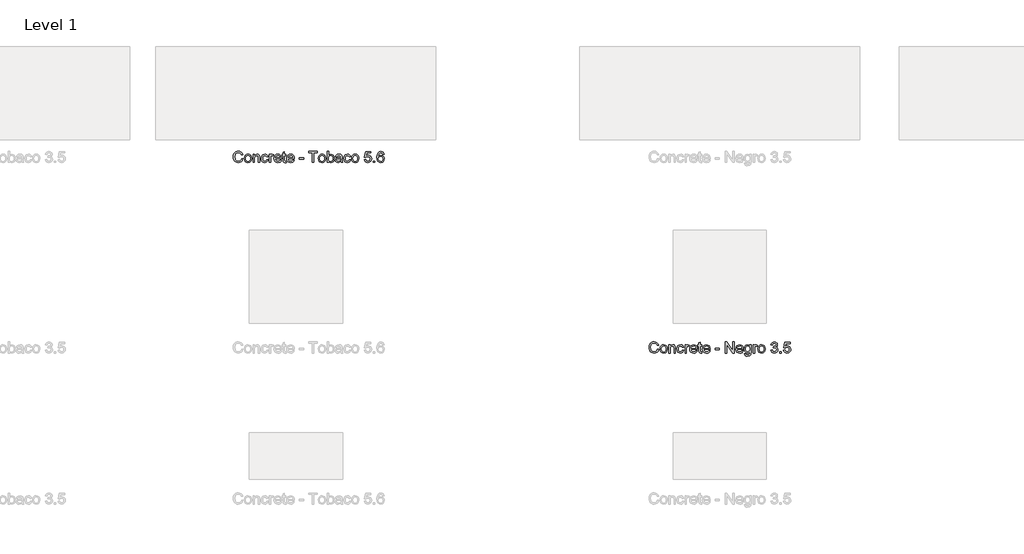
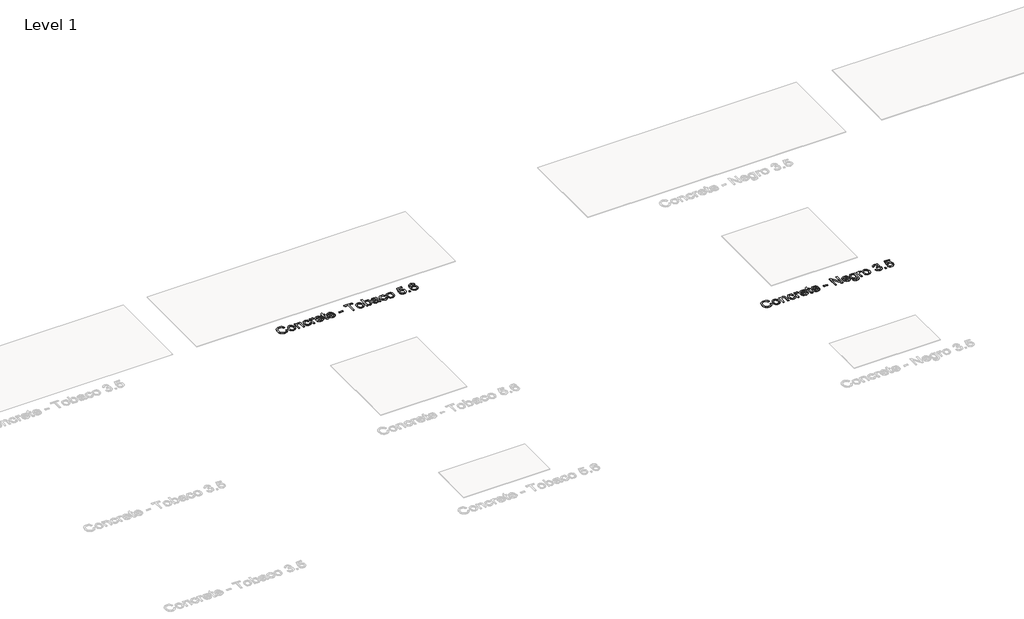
# One storey, part 55 of 80: 2 proxies.
"""IFC4 building model written with IfcOpenShell, lengths in millimetres."""

from ifc_helpers import new_model, si_unit, origin, origin_with_axes, place, context, project, spatial, polyline, outline, extrude, element, save

model = new_model("IFC4")

# Units and contexts
model_context = context("Model", 3, world=origin())
ifc_project = project(units=[si_unit("LENGTHUNIT", "METRE", prefix="MILLI")], contexts=[model_context])

# Site, building, storey
site = spatial("IfcSite", under=ifc_project)
building = spatial("IfcBuilding", under=site)
storey = spatial("IfcBuildingStorey", under=building, Name="Level 1", Elevation=0.0)

# Proxies
placement = place(None, origin())
element("IfcBuildingElementProxy", 1, Name="24\" Arial", ObjectType="24\" Arial", at=placement, inside=storey, context=model_context, shape_type="SweptSolid", body=[
    extrude(outline(polyline([(-7707.9991848, 10790.728562), (-7693.2299541, 10786.9208697), (-7700.0448579, 10769.7105332), (-7710.7395694, 10757.1372159), (-7724.7876464, 10749.4461101), (-7741.6626464, 10746.8824082), (-7758.793656, 10748.822312), (-7772.3982233, 10754.6420236), (-7782.8261079, 10764.1396197), (-7790.4270694, 10777.1131774), (-7795.0676944, 10792.3655813), (-7796.6145694, 10808.6997159), (-7794.8657714, 10825.9280813), (-7789.6193771, 10840.8054851), (-7781.1494252, 10852.8595717), (-7769.7299541, 10861.6179851), (-7756.1866848, 10866.9509178), (-7741.3453387, 10868.728562), (-7725.1518291, 10866.4280813), (-7711.7636079, 10859.526639), (-7701.5989444, 10848.4497159), (-7695.0761079, 10833.6227928), (-7709.8453387, 10830.103562), (-7714.965531, 10840.8739947), (-7721.9607233, 10848.2622159), (-7730.9174541, 10852.5350524), (-7741.9222617, 10853.9593313), (-7754.6073579, 10852.3800044), (-7765.028031, 10847.6420236), (-7772.9354829, 10840.2429851), (-7778.0809156, 10830.6804851), (-7781.8453387, 10808.728562), (-7777.3886079, 10783.2862544), (-7771.6914925, 10773.7850524), (-7763.5136079, 10767.0314467), (-7743.1338002, 10761.651639), (-7730.8056752, 10763.4833697), (-7720.5328387, 10768.978562), (-7712.7768291, 10778.0795236), (-7707.9991848, 10790.728562)])), origin_with_axes(), (0.0, 0.0, 1.0), 2.0),
    extrude(outline(polyline([(-7678.4607233, 10792.1131774), (-7675.2660117, 10813.0338505), (-7665.6818771, 10827.7381774), (-7653.840531, 10834.9425044), (-7639.6626464, 10837.3439467), (-7624.1470214, 10834.4196678), (-7611.7539925, 10825.6468313), (-7603.6301944, 10811.7177447), (-7600.9222617, 10793.3247159), (-7605.7107233, 10767.0458697), (-7619.6578387, 10752.1756774), (-7639.6626464, 10746.8824082), (-7655.3657714, 10749.7958697), (-7667.7443771, 10758.5362544), (-7675.7816367, 10772.7574082), (-7678.4607233, 10792.1131774)]), holes=[polyline([(-7663.6914925, 10792.1420236), (-7661.9823579, 10778.775437), (-7656.8549541, 10769.2526005), (-7649.1386079, 10763.5518794), (-7639.6626464, 10761.651639), (-7630.2299541, 10763.5626967), (-7622.528031, 10769.2958697), (-7617.4006271, 10778.9449082), (-7615.6914925, 10792.603562), (-7617.4114444, 10805.5807255), (-7622.5713002, 10814.9737544), (-7630.2840406, 10820.6744755), (-7639.6626464, 10822.5747159), (-7649.1386079, 10820.681687), (-7656.8549541, 10815.0026005), (-7661.9823579, 10805.5013986), (-7663.6914925, 10792.1420236)])]), origin_with_axes(), (0.0, 0.0, 1.0), 2.0),
    extrude(outline(polyline([(-7584.3068771, 10748.728562), (-7584.3068771, 10835.4977928), (-7569.5376464, 10835.4977928), (-7569.5376464, 10823.3824082), (-7558.2443771, 10833.853562), (-7542.8261079, 10837.3439467), (-7528.8789925, 10834.5314467), (-7519.3597617, 10827.1468313), (-7514.9318771, 10816.2862544), (-7514.153031, 10802.0074082), (-7514.153031, 10748.728562), (-7528.9222617, 10748.728562), (-7528.9222617, 10800.0170236), (-7530.6241848, 10813.0843313), (-7536.6386079, 10819.9929851), (-7546.778031, 10822.5747159), (-7562.8020694, 10816.776639), (-7567.8537521, 10808.3751967), (-7569.5376464, 10794.7670236), (-7569.5376464, 10748.728562), (-7584.3068771, 10748.728562)])), origin_with_axes(), (0.0, 0.0, 1.0), 2.0),
    extrude(outline(polyline([(-7438.4607233, 10780.1131774), (-7423.6914925, 10778.2670236), (-7427.809281, 10765.1312063), (-7435.5472617, 10755.2045236), (-7446.1770694, 10748.962937), (-7458.9703387, 10746.8824082), (-7474.6806752, 10749.7850524), (-7486.965531, 10758.4929851), (-7494.8946175, 10772.6239947), (-7497.5376464, 10791.7958697), (-7493.0232233, 10816.3295236), (-7487.3261079, 10825.5278409), (-7479.2636079, 10832.0939467), (-7459.1722617, 10837.3439467), (-7446.6926944, 10835.541062), (-7436.715531, 10830.1324082), (-7429.5580791, 10821.4064467), (-7425.5376464, 10809.651639), (-7440.3068771, 10807.8054851), (-7447.1578387, 10818.8679851), (-7459.0568771, 10822.5747159), (-7468.6013483, 10820.7501967), (-7476.1770694, 10815.276639), (-7481.1205791, 10805.8583697), (-7482.7684156, 10792.1997159), (-7481.1566367, 10778.3571678), (-7476.3213002, 10768.9064467), (-7468.8825983, 10763.4653409), (-7459.4607233, 10761.651639), (-7445.5424541, 10766.1804851), (-7438.4607233, 10780.1131774)])), origin_with_axes(), (0.0, 0.0, 1.0), 2.0),
    extrude(outline(polyline([(-7410.7684156, 10748.728562), (-7410.7684156, 10835.4977928), (-7397.8453387, 10835.4977928), (-7397.8453387, 10822.6612544), (-7388.6722617, 10834.4881774), (-7379.4414925, 10837.3439467), (-7364.6145694, 10832.7862544), (-7369.5472617, 10819.5458697), (-7379.9318771, 10822.5747159), (-7388.2828387, 10819.6612544), (-7393.6049541, 10811.5843313), (-7395.9991848, 10794.3343313), (-7395.9991848, 10748.728562), (-7410.7684156, 10748.728562)])), origin_with_axes(), (0.0, 0.0, 1.0), 2.0),
    extrude(outline(polyline([(-7294.6338002, 10774.5747159), (-7280.153031, 10772.728562), (-7285.3705791, 10761.8175044), (-7293.6963002, 10753.6612544), (-7304.9426944, 10748.5771197), (-7318.9222617, 10746.8824082), (-7336.2515887, 10749.806687), (-7349.5857233, 10758.5795236), (-7358.0881271, 10772.6312063), (-7360.9222617, 10791.3920236), (-7358.059281, 10810.7838505), (-7349.4703387, 10825.2862544), (-7336.3164925, 10834.3295236), (-7319.7588002, 10837.3439467), (-7303.7167329, 10834.3367351), (-7290.8982233, 10825.3151005), (-7282.4931752, 10810.8415428), (-7279.6914925, 10791.478562), (-7279.778031, 10787.4977928), (-7346.153031, 10787.4977928), (-7343.5965406, 10776.4425044), (-7337.6578387, 10768.3151005), (-7329.0869252, 10763.3175044), (-7318.6338002, 10761.651639), (-7304.153031, 10764.7381774), (-7294.6338002, 10774.5747159)]), holes=[polyline([(-7346.153031, 10802.2670236), (-7294.4607233, 10802.2670236), (-7300.3741848, 10815.651639), (-7308.9847617, 10820.8439467), (-7319.8164925, 10822.5747159), (-7338.0039925, 10817.0506774), (-7343.7263483, 10810.5927447), (-7346.153031, 10802.2670236)])]), origin_with_axes(), (0.0, 0.0, 1.0), 2.0),
    extrude(outline(polyline([(-7233.5376464, 10761.0458697), (-7231.6914925, 10748.2958697), (-7242.7395694, 10746.8824082), (-7255.1145694, 10749.3343313), (-7261.2876464, 10755.7670236), (-7263.0761079, 10772.526639), (-7263.0761079, 10820.728562), (-7274.153031, 10820.728562), (-7274.153031, 10835.4977928), (-7263.0761079, 10835.4977928), (-7263.0761079, 10856.5843313), (-7248.3068771, 10865.2670236), (-7248.3068771, 10835.4977928), (-7233.5376464, 10835.4977928), (-7233.5376464, 10820.728562), (-7248.3068771, 10820.728562), (-7248.3068771, 10772.9593313), (-7247.528031, 10765.3439467), (-7245.0039925, 10762.6468313), (-7239.9703387, 10761.651639), (-7233.5376464, 10761.0458697)])), origin_with_axes(), (0.0, 0.0, 1.0), 2.0),
    extrude(outline(polyline([(-7158.0184156, 10774.5747159), (-7143.5376464, 10772.728562), (-7148.7551944, 10761.8175044), (-7157.0809156, 10753.6612544), (-7168.3273098, 10748.5771197), (-7182.3068771, 10746.8824082), (-7199.6362041, 10749.806687), (-7212.9703387, 10758.5795236), (-7221.4727425, 10772.6312063), (-7224.3068771, 10791.3920236), (-7221.4438964, 10810.7838505), (-7212.8549541, 10825.2862544), (-7199.7011079, 10834.3295236), (-7183.1434156, 10837.3439467), (-7167.1013483, 10834.3367351), (-7154.2828387, 10825.3151005), (-7145.8777906, 10810.8415428), (-7143.0761079, 10791.478562), (-7143.1626464, 10787.4977928), (-7209.5376464, 10787.4977928), (-7206.981156, 10776.4425044), (-7201.0424541, 10768.3151005), (-7192.4715406, 10763.3175044), (-7182.0184156, 10761.651639), (-7167.5376464, 10764.7381774), (-7158.0184156, 10774.5747159)]), holes=[polyline([(-7209.5376464, 10802.2670236), (-7157.8453387, 10802.2670236), (-7163.7588002, 10815.651639), (-7172.3693771, 10820.8439467), (-7183.2011079, 10822.5747159), (-7201.3886079, 10817.0506774), (-7207.1109637, 10810.5927447), (-7209.5376464, 10802.2670236)])]), origin_with_axes(), (0.0, 0.0, 1.0), 2.0),
    extrude(outline(polyline([(-7089.5376464, 10783.8054851), (-7089.5376464, 10798.5747159), (-7043.3838002, 10798.5747159), (-7043.3838002, 10783.8054851), (-7089.5376464, 10783.8054851)])), origin_with_axes(), (0.0, 0.0, 1.0), 2.0),
    extrude(outline(polyline([(-6949.2299541, 10748.728562), (-6949.2299541, 10852.1131774), (-6987.9991848, 10852.1131774), (-6987.9991848, 10866.8824082), (-6895.6914925, 10866.8824082), (-6895.6914925, 10852.1131774), (-6934.4607233, 10852.1131774), (-6934.4607233, 10748.728562), (-6949.2299541, 10748.728562)])), origin_with_axes(), (0.0, 0.0, 1.0), 2.0),
    extrude(outline(polyline([(-6884.6145694, 10792.1131774), (-6881.4198579, 10813.0338505), (-6871.8357233, 10827.7381774), (-6859.9943771, 10834.9425044), (-6845.8164925, 10837.3439467), (-6830.3008675, 10834.4196678), (-6817.9078387, 10825.6468313), (-6809.7840406, 10811.7177447), (-6807.0761079, 10793.3247159), (-6811.8645694, 10767.0458697), (-6825.8116848, 10752.1756774), (-6845.8164925, 10746.8824082), (-6861.5196175, 10749.7958697), (-6873.8982233, 10758.5362544), (-6881.9354829, 10772.7574082), (-6884.6145694, 10792.1131774)]), holes=[polyline([(-6869.8453387, 10792.1420236), (-6868.1362041, 10778.775437), (-6863.0088002, 10769.2526005), (-6855.2924541, 10763.5518794), (-6845.8164925, 10761.651639), (-6836.3838002, 10763.5626967), (-6828.6818771, 10769.2958697), (-6823.5544733, 10778.9449082), (-6821.8453387, 10792.603562), (-6823.5652906, 10805.5807255), (-6828.7251464, 10814.9737544), (-6836.4378867, 10820.6744755), (-6845.8164925, 10822.5747159), (-6855.2924541, 10820.681687), (-6863.0088002, 10815.0026005), (-6868.1362041, 10805.5013986), (-6869.8453387, 10792.1420236)])]), origin_with_axes(), (0.0, 0.0, 1.0), 2.0),
    extrude(outline(polyline([(-6775.6914925, 10748.728562), (-6790.4607233, 10748.728562), (-6790.4607233, 10866.8824082), (-6775.6914925, 10866.8824082), (-6775.6914925, 10823.0651005), (-6765.3501464, 10833.7742351), (-6752.4991848, 10837.3439467), (-6737.7011079, 10834.1276005), (-6726.2203387, 10825.0843313), (-6719.1674541, 10811.0218313), (-6716.6145694, 10793.4112544), (-6719.2575983, 10773.6949082), (-6727.1866848, 10759.026639), (-6738.8225021, 10749.9184659), (-6752.5857233, 10746.8824082), (-6765.7179348, 10750.7982736), (-6775.6914925, 10762.5458697), (-6775.6914925, 10748.728562)]), holes=[polyline([(-6775.6914925, 10792.7189467), (-6771.653031, 10772.0651005), (-6763.9150502, 10764.2550044), (-6753.8549541, 10761.651639), (-6745.3309156, 10763.5699082), (-6738.0472617, 10769.3247159), (-6733.0496656, 10778.8800044), (-6731.3838002, 10792.1997159), (-6732.981156, 10805.714139), (-6737.7732233, 10815.1612544), (-6744.8297137, 10820.7213505), (-6753.2203387, 10822.5747159), (-6761.7443771, 10820.6564467), (-6769.028031, 10814.901639), (-6774.0256271, 10805.5194274), (-6775.6914925, 10792.7189467)])]), origin_with_axes(), (0.0, 0.0, 1.0), 2.0),
    extrude(outline(polyline([(-6644.6145694, 10759.8054851), (-6658.9366848, 10749.7958697), (-6674.7588002, 10746.8824082), (-6687.1013483, 10748.634812), (-6696.2059156, 10753.8920236), (-6701.8200983, 10761.8751967), (-6703.6914925, 10771.8054851), (-6700.8645694, 10783.4881774), (-6693.4366848, 10791.9689467), (-6683.0953387, 10796.8151005), (-6670.3164925, 10799.0362544), (-6644.7011079, 10804.1131774), (-6644.6145694, 10807.401639), (-6648.6818771, 10818.3054851), (-6665.0088002, 10822.5747159), (-6679.9511079, 10819.7333697), (-6687.0761079, 10809.651639), (-6701.8453387, 10811.4977928), (-6695.4559156, 10825.9208697), (-6682.590531, 10834.3727928), (-6663.1049541, 10837.3439467), (-6645.2059156, 10834.7189467), (-6635.0953387, 10828.1276005), (-6630.5664925, 10818.103562), (-6629.8453387, 10805.1804851), (-6629.8453387, 10786.8054851), (-6629.0953387, 10761.1468313), (-6626.153031, 10748.728562), (-6640.9222617, 10748.728562), (-6644.6145694, 10759.8054851)]), holes=[polyline([(-6644.6145694, 10789.3439467), (-6668.4414925, 10784.8151005), (-6681.1482233, 10782.4208697), (-6686.903031, 10778.526639), (-6688.9222617, 10772.8439467), (-6684.5232233, 10764.853562), (-6671.6145694, 10761.651639), (-6656.6722617, 10765.1852928), (-6647.0376464, 10773.7381774), (-6644.7011079, 10785.1612544), (-6644.6145694, 10789.3439467)])]), origin_with_axes(), (0.0, 0.0, 1.0), 2.0),
    extrude(outline(polyline([(-6554.153031, 10780.1131774), (-6539.3838002, 10778.2670236), (-6543.5015887, 10765.1312063), (-6551.2395694, 10755.2045236), (-6561.8693771, 10748.962937), (-6574.6626464, 10746.8824082), (-6590.3729829, 10749.7850524), (-6602.6578387, 10758.4929851), (-6610.5869252, 10772.6239947), (-6613.2299541, 10791.7958697), (-6608.715531, 10816.3295236), (-6603.0184156, 10825.5278409), (-6594.9559156, 10832.0939467), (-6574.8645694, 10837.3439467), (-6562.3850021, 10835.541062), (-6552.4078387, 10830.1324082), (-6545.2503867, 10821.4064467), (-6541.2299541, 10809.651639), (-6555.9991848, 10807.8054851), (-6562.8501464, 10818.8679851), (-6574.7491848, 10822.5747159), (-6584.293656, 10820.7501967), (-6591.8693771, 10815.276639), (-6596.8128867, 10805.8583697), (-6598.4607233, 10792.1997159), (-6596.8489444, 10778.3571678), (-6592.0136079, 10768.9064467), (-6584.574906, 10763.4653409), (-6575.153031, 10761.651639), (-6561.2347617, 10766.1804851), (-6554.153031, 10780.1131774)])), origin_with_axes(), (0.0, 0.0, 1.0), 2.0),
    extrude(outline(polyline([(-6530.153031, 10792.1131774), (-6526.9583194, 10813.0338505), (-6517.3741848, 10827.7381774), (-6505.5328387, 10834.9425044), (-6491.3549541, 10837.3439467), (-6475.8393291, 10834.4196678), (-6463.4463002, 10825.6468313), (-6455.3225021, 10811.7177447), (-6452.6145694, 10793.3247159), (-6457.403031, 10767.0458697), (-6471.3501464, 10752.1756774), (-6491.3549541, 10746.8824082), (-6507.0580791, 10749.7958697), (-6519.4366848, 10758.5362544), (-6527.4739444, 10772.7574082), (-6530.153031, 10792.1131774)]), holes=[polyline([(-6515.3838002, 10792.1420236), (-6513.6746656, 10778.775437), (-6508.5472617, 10769.2526005), (-6500.8309156, 10763.5518794), (-6491.3549541, 10761.651639), (-6481.9222617, 10763.5626967), (-6474.2203387, 10769.2958697), (-6469.0929348, 10778.9449082), (-6467.3838002, 10792.603562), (-6469.1037521, 10805.5807255), (-6474.2636079, 10814.9737544), (-6481.9763483, 10820.6744755), (-6491.3549541, 10822.5747159), (-6500.8309156, 10820.681687), (-6508.5472617, 10815.0026005), (-6513.6746656, 10805.5013986), (-6515.3838002, 10792.1420236)])]), origin_with_axes(), (0.0, 0.0, 1.0), 2.0),
    extrude(outline(polyline([(-6393.5376464, 10780.1131774), (-6378.7684156, 10781.9593313), (-6371.3261079, 10766.7429851), (-6355.8934156, 10761.651639), (-6345.3068771, 10763.4220717), (-6337.3741848, 10768.7333697), (-6332.4198579, 10776.9725524), (-6330.7684156, 10787.526639), (-6332.3152906, 10797.464139), (-6336.9559156, 10805.0651005), (-6344.7263483, 10809.8896197), (-6355.6626464, 10811.4977928), (-6368.6289925, 10808.9304851), (-6376.9222617, 10802.2670236), (-6391.6914925, 10804.1131774), (-6378.7684156, 10865.0362544), (-6321.5376464, 10865.0362544), (-6321.5376464, 10850.2670236), (-6366.8261079, 10850.2670236), (-6373.1434156, 10817.728562), (-6362.5929348, 10824.1324082), (-6351.5376464, 10826.2670236), (-6337.7383675, 10823.620389), (-6326.2828387, 10815.6804851), (-6318.5700983, 10803.5795236), (-6315.9991848, 10788.4497159), (-6318.3140887, 10773.6804851), (-6325.2588002, 10761.0458697), (-6338.5568771, 10750.4232736), (-6355.9511079, 10746.8824082), (-6370.4571175, 10749.1576486), (-6382.0136079, 10755.9833697), (-6389.9354829, 10766.5663024), (-6393.5376464, 10780.1131774)])), origin_with_axes(), (0.0, 0.0, 1.0), 2.0),
    extrude(outline(polyline([(-6295.6914925, 10748.728562), (-6295.6914925, 10763.4977928), (-6280.9222617, 10763.4977928), (-6280.9222617, 10748.728562), (-6295.6914925, 10748.728562)])), origin_with_axes(), (0.0, 0.0, 1.0), 2.0),
    extrude(outline(polyline([(-6181.2299541, 10835.4977928), (-6195.9991848, 10833.651639), (-6201.5953387, 10845.9689467), (-6208.2948579, 10850.5771197), (-6216.3934156, 10852.1131774), (-6229.7203387, 10848.5362544), (-6239.8020694, 10835.1083697), (-6243.9991848, 10808.7862544), (-6230.9751464, 10820.5699082), (-6214.8357233, 10824.4208697), (-6201.1914925, 10821.7886582), (-6189.7395694, 10813.8920236), (-6181.9727425, 10801.8271197), (-6179.3838002, 10786.6901005), (-6184.2588002, 10766.3102928), (-6197.6722617, 10751.8872159), (-6217.028031, 10746.8824082), (-6233.7840406, 10750.1997159), (-6247.1289925, 10760.151639), (-6255.8585598, 10777.7189467), (-6258.7684156, 10803.8824082), (-6255.5376464, 10833.2982736), (-6245.8453387, 10853.4112544), (-6232.6121656, 10863.5146197), (-6215.4703387, 10866.8824082), (-6202.5112041, 10864.7982736), (-6192.1338002, 10858.5458697), (-6184.8645694, 10848.6155813), (-6181.2299541, 10835.4977928)]), holes=[polyline([(-6243.9991848, 10786.9208697), (-6240.5809156, 10774.1276005), (-6231.4943771, 10764.839139), (-6218.1818771, 10761.651639), (-6208.4354829, 10763.3030813), (-6200.7732233, 10768.2574082), (-6195.8080791, 10776.0458697), (-6194.153031, 10786.1997159), (-6195.7864444, 10795.9461101), (-6200.6866848, 10803.3776005), (-6208.4787521, 10808.0831294), (-6218.7876464, 10809.651639), (-6228.5196175, 10808.0831294), (-6236.6578387, 10803.3776005), (-6242.1638483, 10796.1263986), (-6243.9991848, 10786.9208697)])]), origin_with_axes(), (0.0, 0.0, 1.0), 2.0),
])
element("IfcBuildingElementProxy", 2, Name="24\" Arial", ObjectType="24\" Arial", at=placement, inside=storey, context=model_context, shape_type="SweptSolid", body=[
    extrude(outline(polyline([(-3254.7684156, 8750.084666), (-3239.9991848, 8746.2769737), (-3246.8140887, 8729.0666372), (-3257.5088002, 8716.4933199), (-3271.5568771, 8708.8022141), (-3288.4318771, 8706.2385122), (-3305.5628867, 8708.178416), (-3319.1674541, 8713.9981275), (-3329.5953387, 8723.4957237), (-3337.1963002, 8736.4692814), (-3341.8369252, 8751.7216852), (-3343.3838002, 8768.0558199), (-3341.6350021, 8785.2841852), (-3336.3886079, 8800.1615891), (-3327.918656, 8812.2156756), (-3316.4991848, 8820.9740891), (-3302.9559156, 8826.3070218), (-3288.1145694, 8828.084666), (-3271.9210598, 8825.7841852), (-3258.5328387, 8818.8827429), (-3248.3681752, 8807.8058199), (-3241.8453387, 8792.9788968), (-3256.6145694, 8789.459666), (-3261.7347617, 8800.2300987), (-3268.7299541, 8807.6183199), (-3277.6866848, 8811.8911564), (-3288.6914925, 8813.3154352), (-3301.3765887, 8811.7361083), (-3311.7972617, 8806.9981275), (-3319.7047137, 8799.5990891), (-3324.8501464, 8790.0365891), (-3328.6145694, 8768.084666), (-3324.1578387, 8742.6423583), (-3318.4607233, 8733.1411564), (-3310.2828387, 8726.3875506), (-3289.903031, 8721.0077429), (-3277.574906, 8722.8394737), (-3267.3020694, 8728.334666), (-3259.5460598, 8737.4356275), (-3254.7684156, 8750.084666)])), origin_with_axes(), (0.0, 0.0, 1.0), 2.0),
    extrude(outline(polyline([(-3225.2299541, 8751.4692814), (-3222.0352425, 8772.3899545), (-3212.4511079, 8787.0942814), (-3200.6097617, 8794.2986083), (-3186.4318771, 8796.7000506), (-3170.9162521, 8793.7757718), (-3158.5232233, 8785.0029352), (-3150.3994252, 8771.0738487), (-3147.6914925, 8752.6808199), (-3152.4799541, 8726.4019737), (-3166.4270694, 8711.5317814), (-3186.4318771, 8706.2385122), (-3202.1350021, 8709.1519737), (-3214.5136079, 8717.8923583), (-3222.5508675, 8732.1135122), (-3225.2299541, 8751.4692814)]), holes=[polyline([(-3210.4607233, 8751.4981275), (-3208.7515887, 8738.131541), (-3203.6241848, 8728.6087045), (-3195.9078387, 8722.9079833), (-3186.4318771, 8721.0077429), (-3176.9991848, 8722.9188006), (-3169.2972617, 8728.6519737), (-3164.1698579, 8738.3010122), (-3162.4607233, 8751.959666), (-3164.1806752, 8764.9368295), (-3169.340531, 8774.3298583), (-3177.0532714, 8780.0305795), (-3186.4318771, 8781.9308199), (-3195.9078387, 8780.037791), (-3203.6241848, 8774.3587045), (-3208.7515887, 8764.8575025), (-3210.4607233, 8751.4981275)])]), origin_with_axes(), (0.0, 0.0, 1.0), 2.0),
    extrude(outline(polyline([(-3131.0761079, 8708.084666), (-3131.0761079, 8794.8538968), (-3116.3068771, 8794.8538968), (-3116.3068771, 8782.7385122), (-3105.0136079, 8793.209666), (-3089.5953387, 8796.7000506), (-3075.6482233, 8793.8875506), (-3066.1289925, 8786.5029352), (-3061.7011079, 8775.6423583), (-3060.9222617, 8761.3635122), (-3060.9222617, 8708.084666), (-3075.6914925, 8708.084666), (-3075.6914925, 8759.3731275), (-3077.3934156, 8772.4404352), (-3083.4078387, 8779.3490891), (-3093.5472617, 8781.9308199), (-3109.5713002, 8776.1327429), (-3114.6229829, 8767.7313006), (-3116.3068771, 8754.1231275), (-3116.3068771, 8708.084666), (-3131.0761079, 8708.084666)])), origin_with_axes(), (0.0, 0.0, 1.0), 2.0),
    extrude(outline(polyline([(-2985.2299541, 8739.4692814), (-2970.4607233, 8737.6231275), (-2974.5785117, 8724.4873102), (-2982.3164925, 8714.5606275), (-2992.9463002, 8708.319041), (-3005.7395694, 8706.2385122), (-3021.449906, 8709.1411564), (-3033.7347617, 8717.8490891), (-3041.6638483, 8731.9800987), (-3044.3068771, 8751.1519737), (-3039.7924541, 8775.6856275), (-3034.0953387, 8784.8839449), (-3026.0328387, 8791.4500506), (-3005.9414925, 8796.7000506), (-2993.4619252, 8794.897166), (-2983.4847617, 8789.4885122), (-2976.3273098, 8780.7625506), (-2972.3068771, 8769.0077429), (-2987.0761079, 8767.1615891), (-2993.9270694, 8778.2240891), (-3005.8261079, 8781.9308199), (-3015.3705791, 8780.1063006), (-3022.9463002, 8774.6327429), (-3027.8898098, 8765.2144737), (-3029.5376464, 8751.5558199), (-3027.9258675, 8737.7132718), (-3023.090531, 8728.2625506), (-3015.6518291, 8722.8214449), (-3006.2299541, 8721.0077429), (-2992.3116848, 8725.5365891), (-2985.2299541, 8739.4692814)])), origin_with_axes(), (0.0, 0.0, 1.0), 2.0),
    extrude(outline(polyline([(-2957.5376464, 8708.084666), (-2957.5376464, 8794.8538968), (-2944.6145694, 8794.8538968), (-2944.6145694, 8782.0173583), (-2935.4414925, 8793.8442814), (-2926.2107233, 8796.7000506), (-2911.3838002, 8792.1423583), (-2916.3164925, 8778.9019737), (-2926.7011079, 8781.9308199), (-2935.0520694, 8779.0173583), (-2940.3741848, 8770.9404352), (-2942.7684156, 8753.6904352), (-2942.7684156, 8708.084666), (-2957.5376464, 8708.084666)])), origin_with_axes(), (0.0, 0.0, 1.0), 2.0),
    extrude(outline(polyline([(-2841.403031, 8733.9308199), (-2826.9222617, 8732.084666), (-2832.1398098, 8721.1736083), (-2840.465531, 8713.0173583), (-2851.7119252, 8707.9332237), (-2865.6914925, 8706.2385122), (-2883.0208194, 8709.162791), (-2896.3549541, 8717.9356275), (-2904.8573579, 8731.9873102), (-2907.6914925, 8750.7481275), (-2904.8285117, 8770.1399545), (-2896.2395694, 8784.6423583), (-2883.0857233, 8793.6856275), (-2866.528031, 8796.7000506), (-2850.4859637, 8793.6928391), (-2837.6674541, 8784.6712045), (-2829.262406, 8770.1976468), (-2826.4607233, 8750.834666), (-2826.5472617, 8746.8538968), (-2892.9222617, 8746.8538968), (-2890.3657714, 8735.7986083), (-2884.4270694, 8727.6712045), (-2875.856156, 8722.6736083), (-2865.403031, 8721.0077429), (-2850.9222617, 8724.0942814), (-2841.403031, 8733.9308199)]), holes=[polyline([(-2892.9222617, 8761.6231275), (-2841.2299541, 8761.6231275), (-2847.1434156, 8775.0077429), (-2855.7539925, 8780.2000506), (-2866.5857233, 8781.9308199), (-2884.7732233, 8776.4067814), (-2890.4955791, 8769.9488487), (-2892.9222617, 8761.6231275)])]), origin_with_axes(), (0.0, 0.0, 1.0), 2.0),
    extrude(outline(polyline([(-2780.3068771, 8720.4019737), (-2778.4607233, 8707.6519737), (-2789.5088002, 8706.2385122), (-2801.8838002, 8708.6904352), (-2808.0568771, 8715.1231275), (-2809.8453387, 8731.8827429), (-2809.8453387, 8780.084666), (-2820.9222617, 8780.084666), (-2820.9222617, 8794.8538968), (-2809.8453387, 8794.8538968), (-2809.8453387, 8815.9404352), (-2795.0761079, 8824.6231275), (-2795.0761079, 8794.8538968), (-2780.3068771, 8794.8538968), (-2780.3068771, 8780.084666), (-2795.0761079, 8780.084666), (-2795.0761079, 8732.3154352), (-2794.2972617, 8724.7000506), (-2791.7732233, 8722.0029352), (-2786.7395694, 8721.0077429), (-2780.3068771, 8720.4019737)])), origin_with_axes(), (0.0, 0.0, 1.0), 2.0),
    extrude(outline(polyline([(-2704.7876464, 8733.9308199), (-2690.3068771, 8732.084666), (-2695.5244252, 8721.1736083), (-2703.8501464, 8713.0173583), (-2715.0965406, 8707.9332237), (-2729.0761079, 8706.2385122), (-2746.4054348, 8709.162791), (-2759.7395694, 8717.9356275), (-2768.2419733, 8731.9873102), (-2771.0761079, 8750.7481275), (-2768.2131271, 8770.1399545), (-2759.6241848, 8784.6423583), (-2746.4703387, 8793.6856275), (-2729.9126464, 8796.7000506), (-2713.8705791, 8793.6928391), (-2701.0520694, 8784.6712045), (-2692.6470214, 8770.1976468), (-2689.8453387, 8750.834666), (-2689.9318771, 8746.8538968), (-2756.3068771, 8746.8538968), (-2753.7503867, 8735.7986083), (-2747.8116848, 8727.6712045), (-2739.2407714, 8722.6736083), (-2728.7876464, 8721.0077429), (-2714.3068771, 8724.0942814), (-2704.7876464, 8733.9308199)]), holes=[polyline([(-2756.3068771, 8761.6231275), (-2704.6145694, 8761.6231275), (-2710.528031, 8775.0077429), (-2719.1386079, 8780.2000506), (-2729.9703387, 8781.9308199), (-2748.1578387, 8776.4067814), (-2753.8801944, 8769.9488487), (-2756.3068771, 8761.6231275)])]), origin_with_axes(), (0.0, 0.0, 1.0), 2.0),
    extrude(outline(polyline([(-2636.3068771, 8743.1615891), (-2636.3068771, 8757.9308199), (-2590.153031, 8757.9308199), (-2590.153031, 8743.1615891), (-2636.3068771, 8743.1615891)])), origin_with_axes(), (0.0, 0.0, 1.0), 2.0),
    extrude(outline(polyline([(-2525.5376464, 8708.084666), (-2525.5376464, 8826.2385122), (-2509.7299541, 8826.2385122), (-2447.9991848, 8732.6327429), (-2447.9991848, 8826.2385122), (-2433.2299541, 8826.2385122), (-2433.2299541, 8708.084666), (-2449.0376464, 8708.084666), (-2510.7684156, 8801.7192814), (-2510.7684156, 8708.084666), (-2525.5376464, 8708.084666)])), origin_with_axes(), (0.0, 0.0, 1.0), 2.0),
    extrude(outline(polyline([(-2348.4799541, 8733.9308199), (-2333.9991848, 8732.084666), (-2339.2167329, 8721.1736083), (-2347.5424541, 8713.0173583), (-2358.7888483, 8707.9332237), (-2372.7684156, 8706.2385122), (-2390.0977425, 8709.162791), (-2403.4318771, 8717.9356275), (-2411.934281, 8731.9873102), (-2414.7684156, 8750.7481275), (-2411.9054348, 8770.1399545), (-2403.3164925, 8784.6423583), (-2390.1626464, 8793.6856275), (-2373.6049541, 8796.7000506), (-2357.5628867, 8793.6928391), (-2344.7443771, 8784.6712045), (-2336.3393291, 8770.1976468), (-2333.5376464, 8750.834666), (-2333.6241848, 8746.8538968), (-2399.9991848, 8746.8538968), (-2397.4426944, 8735.7986083), (-2391.5039925, 8727.6712045), (-2382.9330791, 8722.6736083), (-2372.4799541, 8721.0077429), (-2357.9991848, 8724.0942814), (-2348.4799541, 8733.9308199)]), holes=[polyline([(-2399.9991848, 8761.6231275), (-2348.3068771, 8761.6231275), (-2354.2203387, 8775.0077429), (-2362.8309156, 8780.2000506), (-2373.6626464, 8781.9308199), (-2391.8501464, 8776.4067814), (-2397.5725021, 8769.9488487), (-2399.9991848, 8761.6231275)])]), origin_with_axes(), (0.0, 0.0, 1.0), 2.0),
    extrude(outline(polyline([(-2322.4607233, 8700.7000506), (-2307.6914925, 8698.8538968), (-2302.903031, 8691.0654352), (-2288.5664925, 8687.7769737), (-2273.4511079, 8691.4981275), (-2266.2395694, 8701.9404352), (-2265.2299541, 8719.1615891), (-2275.6289925, 8710.8538968), (-2288.3068771, 8708.084666), (-2303.5340406, 8711.3082237), (-2314.8886079, 8720.9788968), (-2321.9523098, 8735.1567814), (-2324.3068771, 8751.9019737), (-2320.0809156, 8774.7913968), (-2307.8501464, 8790.9885122), (-2289.028031, 8796.7000506), (-2275.8525502, 8793.4692814), (-2265.2299541, 8783.7769737), (-2265.2299541, 8794.8538968), (-2250.4607233, 8794.8538968), (-2250.4607233, 8719.9404352), (-2254.4991848, 8691.2529352), (-2267.2924541, 8677.9115891), (-2288.8549541, 8673.0077429), (-2302.5965406, 8674.7349064), (-2313.4174541, 8679.9163968), (-2320.3585598, 8688.5666372), (-2322.4607233, 8700.7000506)]), holes=[polyline([(-2309.5376464, 8752.9115891), (-2307.9619252, 8739.3647141), (-2303.2347617, 8730.0510122), (-2296.1277906, 8724.6531756), (-2287.4126464, 8722.8538968), (-2278.762406, 8724.6423583), (-2271.6193771, 8730.0077429), (-2266.8273098, 8739.2024545), (-2265.2299541, 8752.4788968), (-2266.8741848, 8765.2829833), (-2271.8068771, 8774.5029352), (-2279.0544733, 8780.0738487), (-2287.6434156, 8781.9308199), (-2296.0773098, 8780.1026949), (-2303.1482233, 8774.6183199), (-2307.9402906, 8765.5353872), (-2309.5376464, 8752.9115891)])]), origin_with_axes(), (0.0, 0.0, 1.0), 2.0),
    extrude(outline(polyline([(-2228.3068771, 8708.084666), (-2228.3068771, 8794.8538968), (-2215.3838002, 8794.8538968), (-2215.3838002, 8782.0173583), (-2206.2107233, 8793.8442814), (-2196.9799541, 8796.7000506), (-2182.153031, 8792.1423583), (-2187.0857233, 8778.9019737), (-2197.4703387, 8781.9308199), (-2205.8213002, 8779.0173583), (-2211.1434156, 8770.9404352), (-2213.5376464, 8753.6904352), (-2213.5376464, 8708.084666), (-2228.3068771, 8708.084666)])), origin_with_axes(), (0.0, 0.0, 1.0), 2.0),
    extrude(outline(polyline([(-2176.6145694, 8751.4692814), (-2173.4198579, 8772.3899545), (-2163.8357233, 8787.0942814), (-2151.9943771, 8794.2986083), (-2137.8164925, 8796.7000506), (-2122.3008675, 8793.7757718), (-2109.9078387, 8785.0029352), (-2101.7840406, 8771.0738487), (-2099.0761079, 8752.6808199), (-2103.8645694, 8726.4019737), (-2117.8116848, 8711.5317814), (-2137.8164925, 8706.2385122), (-2153.5196175, 8709.1519737), (-2165.8982233, 8717.8923583), (-2173.9354829, 8732.1135122), (-2176.6145694, 8751.4692814)]), holes=[polyline([(-2161.8453387, 8751.4981275), (-2160.1362041, 8738.131541), (-2155.0088002, 8728.6087045), (-2147.2924541, 8722.9079833), (-2137.8164925, 8721.0077429), (-2128.3838002, 8722.9188006), (-2120.6818771, 8728.6519737), (-2115.5544733, 8738.3010122), (-2113.8453387, 8751.959666), (-2115.5652906, 8764.9368295), (-2120.7251464, 8774.3298583), (-2128.4378867, 8780.0305795), (-2137.8164925, 8781.9308199), (-2147.2924541, 8780.037791), (-2155.0088002, 8774.3587045), (-2160.1362041, 8764.8575025), (-2161.8453387, 8751.4981275)])]), origin_with_axes(), (0.0, 0.0, 1.0), 2.0),
    extrude(outline(polyline([(-2039.9991848, 8739.4692814), (-2025.2299541, 8741.3154352), (-2017.0809156, 8725.7673583), (-2001.8357233, 8721.0077429), (-1991.7107233, 8722.6447622), (-1983.8934156, 8727.5558199), (-1978.8958194, 8734.8827429), (-1977.2299541, 8743.7673583), (-1978.8813964, 8752.2012525), (-1983.8357233, 8759.0413968), (-1991.3357233, 8763.5738487), (-2000.6241848, 8765.084666), (-2010.9799541, 8763.4692814), (-2009.3357233, 8778.2385122), (-2006.9703387, 8778.0654352), (-1990.2107233, 8782.3058199), (-1984.6289925, 8787.6856275), (-1982.7684156, 8795.3442814), (-1988.1626464, 8806.897166), (-2002.0664925, 8811.4692814), (-2016.1434156, 8806.8538968), (-2023.3838002, 8793.0077429), (-2038.153031, 8794.8538968), (-2033.8044733, 8808.115916), (-2026.0664925, 8818.0173583), (-2015.4799541, 8824.1832237), (-2002.5857233, 8826.2385122), (-1984.7732233, 8822.1856275), (-1972.3116848, 8811.1087045), (-1967.9991848, 8796.209666), (-1972.0953387, 8782.5942814), (-1984.2107233, 8772.8154352), (-1974.965531, 8769.0798583), (-1968.1145694, 8762.7192814), (-1963.8741848, 8754.0798583), (-1962.4607233, 8743.5077429), (-1965.2876464, 8729.1135122), (-1973.7684156, 8717.084666), (-1986.5688964, 8708.9500506), (-2002.3549541, 8706.2385122), (-2016.6338002, 8708.553416), (-2028.2588002, 8715.4981275), (-2036.3429348, 8726.1207237), (-2039.9991848, 8739.4692814)])), origin_with_axes(), (0.0, 0.0, 1.0), 2.0),
    extrude(outline(polyline([(-1942.153031, 8708.084666), (-1942.153031, 8722.8538968), (-1927.3838002, 8722.8538968), (-1927.3838002, 8708.084666), (-1942.153031, 8708.084666)])), origin_with_axes(), (0.0, 0.0, 1.0), 2.0),
    extrude(outline(polyline([(-1903.3838002, 8739.4692814), (-1888.6145694, 8741.3154352), (-1881.1722617, 8726.0990891), (-1865.7395694, 8721.0077429), (-1855.153031, 8722.7781756), (-1847.2203387, 8728.0894737), (-1842.2660117, 8736.3286564), (-1840.6145694, 8746.8827429), (-1842.1614444, 8756.8202429), (-1846.8020694, 8764.4212045), (-1854.5725021, 8769.2457237), (-1865.5088002, 8770.8538968), (-1878.4751464, 8768.2865891), (-1886.7684156, 8761.6231275), (-1901.5376464, 8763.4692814), (-1888.6145694, 8824.3923583), (-1831.3838002, 8824.3923583), (-1831.3838002, 8809.6231275), (-1876.6722617, 8809.6231275), (-1882.9895694, 8777.084666), (-1872.4390887, 8783.4885122), (-1861.3838002, 8785.6231275), (-1847.5845214, 8782.9764929), (-1836.1289925, 8775.0365891), (-1828.4162521, 8762.9356275), (-1825.8453387, 8747.8058199), (-1828.1602425, 8733.0365891), (-1835.1049541, 8720.4019737), (-1848.403031, 8709.7793775), (-1865.7972617, 8706.2385122), (-1880.3032714, 8708.5137525), (-1891.8597617, 8715.3394737), (-1899.7816367, 8725.9224064), (-1903.3838002, 8739.4692814)])), origin_with_axes(), (0.0, 0.0, 1.0), 2.0),
])

save(model, "model.ifc")
